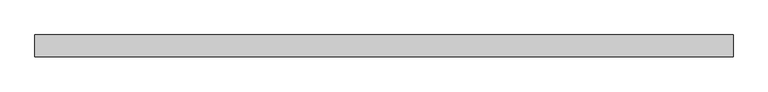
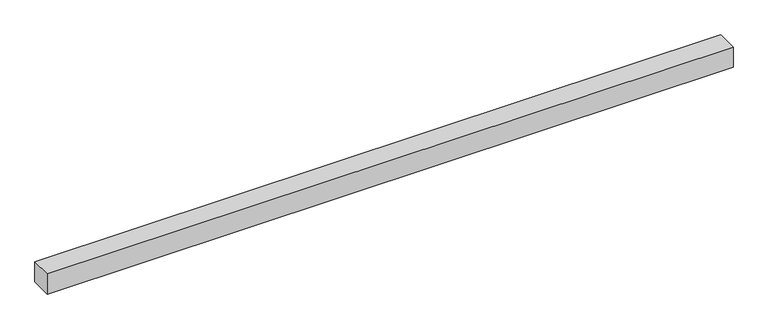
"""IFC4 building model written with IfcOpenShell, lengths in millimetres: proxy geometry, Building-Materials_Other_Daliform_Simple-Family_Accessory_PANEL_for ATLANTIS : PANEL_ATLANTIS-100_diam110_6.5x90x6.5."""

import ifcopenshell
import ifcopenshell.guid

model = None  # the IFC model being written
_history = None  # IfcOwnerHistory: only IFC2X3 demands one
_inside = {}  # id of a spatial element -> (the spatial element, [elements in it])
_under = {}  # id of a project, library or spatial element -> (it, [spatial elements below it])
_declared = {}  # id of a project -> (the project, [libraries it declares])
_typed = {}  # id of a type object -> (the type object, [elements of that type])
_made_of = {}  # id of a material, layer set ... -> (it, [elements and type objects made of it])


def new_model(schema):
    """Start an empty IFC model of exactly this schema.

    Asked for "IFC4X3", IfcOpenShell would pick the latest addendum, in which some entities
    have other attributes; the version numbers below select the first issue.
    IFC2X3 requires an IfcOwnerHistory on every rooted entity: one is made here for all.
    """
    global model, _history
    if schema == "IFC4X3":
        model = ifcopenshell.file(schema_version=(4, 3, 0, 0))
    else:
        model = ifcopenshell.file(schema=schema)
    _inside.clear()
    _under.clear()
    _declared.clear()
    _typed.clear()
    _made_of.clear()
    _history = None
    if model.schema == "IFC2X3":
        org = make("IfcOrganization", Name="unknown")
        user = make(
            "IfcPersonAndOrganization",
            ThePerson=make("IfcPerson", FamilyName="unknown"),
            TheOrganization=org,
        )
        app = make(
            "IfcApplication",
            ApplicationDeveloper=org,
            Version="unknown",
            ApplicationFullName="unknown",
            ApplicationIdentifier="unknown",
        )
        _history = make(
            "IfcOwnerHistory",
            OwningUser=user,
            OwningApplication=app,
            ChangeAction="ADDED",
            CreationDate=0,
        )
    return model


def make(cls, **values):
    """One entity of the class cls with the attributes given. An attribute that is None is left unset."""
    return model.create_entity(
        cls, **{name: value for name, value in values.items() if value is not None}
    )


def rooted(cls, **values):
    """An entity with a GlobalId (a new one), such as an element, a storey or a relation."""
    return make(cls, GlobalId=ifcopenshell.guid.new(), OwnerHistory=_history, **values)


def si_unit(unit_type, name, prefix=None):
    """IfcSIUnit, for example si_unit("LENGTHUNIT", "METRE", prefix="MILLI")."""
    return make("IfcSIUnit", UnitType=unit_type, Prefix=prefix, Name=name)


def assignment(units):
    """IfcUnitAssignment: the units of a project."""
    return None if units is None else make("IfcUnitAssignment", Units=units)


def point(xyz):
    """IfcCartesianPoint."""
    return None if xyz is None else make("IfcCartesianPoint", Coordinates=xyz)


def direction(xyz):
    """IfcDirection."""
    return None if xyz is None else make("IfcDirection", DirectionRatios=xyz)


def frame(location, z_axis=None, x_axis=None):
    """IfcAxis2Placement3D, a coordinate frame: its origin and axes. An axis left out is left unset."""
    return make(
        "IfcAxis2Placement3D",
        Location=point(location),
        Axis=direction(z_axis),
        RefDirection=direction(x_axis),
    )


def origin():
    """The frame at (0, 0, 0) with its axes left unset."""
    return frame((0.0, 0.0, 0.0))


def origin_with_axes():
    """The frame at (0, 0, 0) with the z axis (0, 0, 1) and the x axis (1, 0, 0) written out."""
    return frame((0.0, 0.0, 0.0), z_axis=(0.0, 0.0, 1.0), x_axis=(1.0, 0.0, 0.0))


def place(relative_to, where):
    """IfcLocalPlacement: puts the frame where relative to a parent placement (None: the world)."""
    return make(
        "IfcLocalPlacement", PlacementRelTo=relative_to, RelativePlacement=where
    )


def context(
    kind, dimensions, precision=None, world=None, true_north=None, identifier=None
):
    """IfcGeometricRepresentationContext, for example the 3D "Model" context."""
    return make(
        "IfcGeometricRepresentationContext",
        ContextIdentifier=identifier,
        ContextType=kind,
        CoordinateSpaceDimension=dimensions,
        Precision=precision,
        WorldCoordinateSystem=world,
        TrueNorth=true_north,
    )


def project(units=None, contexts=None):
    """IfcProject with its units and contexts."""
    return rooted(
        "IfcProject",
        Name="project",
        RepresentationContexts=contexts,
        UnitsInContext=assignment(units),
    )


def spatial(cls, under=None, at=None, **own):
    """A site, building, storey or space (cls), placed at a placement, below another one or the project."""
    s = rooted(cls, ObjectPlacement=at, **own)
    if under is not None:
        _under.setdefault(under.id(), (under, []))[1].append(s)
    return s


def polyline(points):
    """IfcPolyline through the points."""
    return make("IfcPolyline", Points=[point(p) for p in points])


def outline(outer, holes=None, kind="AREA"):
    """IfcArbitraryClosedProfileDef: a profile drawn as a closed curve; with holes, ...WithVoids."""
    if holes is None:
        return make("IfcArbitraryClosedProfileDef", ProfileType=kind, OuterCurve=outer)
    return make(
        "IfcArbitraryProfileDefWithVoids",
        ProfileType=kind,
        OuterCurve=outer,
        InnerCurves=holes,
    )


def extrude(swept, where, along, depth):
    """IfcExtrudedAreaSolid: the profile swept, set in the frame where, extruded along a direction by depth."""
    return make(
        "IfcExtrudedAreaSolid",
        SweptArea=swept,
        Position=where,
        ExtrudedDirection=direction(along),
        Depth=depth,
    )


def shape(context_of_items, identifier, shape_type, items):
    """IfcShapeRepresentation: the items that make up one representation, for example the "Body"."""
    return make(
        "IfcShapeRepresentation",
        ContextOfItems=context_of_items,
        RepresentationIdentifier=identifier,
        RepresentationType=shape_type,
        Items=items,
    )


def source(mapping_origin, context_of_items, identifier, shape_type, items):
    """IfcRepresentationMap: a shape defined once, which mapped items show again and again."""
    return make(
        "IfcRepresentationMap",
        MappingOrigin=mapping_origin,
        MappedRepresentation=shape(context_of_items, identifier, shape_type, items),
    )


def transform(
    local_origin,
    x_axis=None,
    y_axis=None,
    z_axis=None,
    scale=None,
    scale2=None,
    scale3=None,
    uniform=True,
):
    """IfcCartesianTransformationOperator3D, or its non-uniform kind. x_axis, y_axis, z_axis: its Axis1, 2, 3."""
    if uniform:
        return make(
            "IfcCartesianTransformationOperator3D",
            Axis1=direction(x_axis),
            Axis2=direction(y_axis),
            LocalOrigin=point(local_origin),
            Scale=scale,
            Axis3=direction(z_axis),
        )
    return make(
        "IfcCartesianTransformationOperator3DnonUniform",
        Axis1=direction(x_axis),
        Axis2=direction(y_axis),
        LocalOrigin=point(local_origin),
        Scale=scale,
        Axis3=direction(z_axis),
        Scale2=scale2,
        Scale3=scale3,
    )


def mapped(mapping_source, mapping_target):
    """IfcMappedItem: shows the shape of a source again, moved by a transform."""
    return make(
        "IfcMappedItem", MappingSource=mapping_source, MappingTarget=mapping_target
    )


def made_of(thing, what):
    """Note that an element or type object is made of a material, layer set ...; save() writes the relation."""
    if what is not None:
        _made_of.setdefault(what.id(), (what, []))[1].append(thing)
    return thing


def element(
    cls,
    number,
    at=None,
    inside=None,
    cuts=None,
    type_object=None,
    material=None,
    context=None,
    identifier="Body",
    shape_type=None,
    held_by="IfcProductDefinitionShape",
    body=None,
    shapes=None,
    **own,
):
    """One element of the class cls, such as IfcWall. Its Tag is "e" and its number.

    at: its placement. inside: the storey or other place that contains it. cuts: it is an
    opening in that element (IfcRelVoidsElement). A single representation is given by context,
    identifier, shape_type and body (its items); several are given by shapes. held_by: the class
    of the entity that holds the representations. save() writes the other relations.
    """
    e = rooted(cls, Tag="e%d" % number, ObjectPlacement=at, **own)
    if body is not None:
        shapes = [shape(context, identifier, shape_type, body)]
    if shapes is not None:
        e.Representation = make(held_by, Representations=shapes)
    if inside is not None:
        _inside.setdefault(inside.id(), (inside, []))[1].append(e)
    if cuts is not None:
        rooted(
            "IfcRelVoidsElement", RelatingBuildingElement=cuts, RelatedOpeningElement=e
        )
    if type_object is not None:
        _typed.setdefault(type_object.id(), (type_object, []))[1].append(e)
    return made_of(e, material)


def aggregate(whole, parts):
    """IfcRelAggregates: a whole, such as a stair, and the parts it consists of."""
    return rooted("IfcRelAggregates", RelatingObject=whole, RelatedObjects=parts)


def save(model, path):
    """Write the relations noted so far, then the file.

    IfcRelAggregates (storeys below a building ...), IfcRelContainedInSpatialStructure (elements
    in a storey), IfcRelDefinesByType, IfcRelAssociatesMaterial and IfcRelDeclares: one each for
    every whole, place, type object, material and project.
    """
    for whole, parts in _under.values():
        aggregate(whole, parts)
    for where, things in _inside.values():
        rooted(
            "IfcRelContainedInSpatialStructure",
            RelatedElements=things,
            RelatingStructure=where,
        )
    for kind, things in _typed.values():
        rooted("IfcRelDefinesByType", RelatedObjects=things, RelatingType=kind)
    for what, things in _made_of.values():
        rooted("IfcRelAssociatesMaterial", RelatedObjects=things, RelatingMaterial=what)
    for by, libraries in _declared.values():
        rooted("IfcRelDeclares", RelatingContext=by, RelatedDefinitions=libraries)
    model.write(path)


def generic_models_1072ffb0(model_context):
    return source(origin(), model_context, "Body", "SweptSolid", [
        extrude(outline(polyline([(0.0, -65.0), (0.0, 0.0), (2081.0, 0.0), (2081.0, -65.0), (0.0, -65.0)])), origin_with_axes(), (0.0, 0.0, 1.0), 65.0),
    ])


if __name__ == "__main__":
    model = new_model("IFC4")
    model_context = context("Model", 3, world=origin())
    ifc_project = project(units=[si_unit("LENGTHUNIT", "METRE", prefix="MILLI")], contexts=[model_context])
    site = spatial("IfcSite", under=ifc_project)
    building = spatial("IfcBuilding", under=site)
    placement = place(None, origin())
    generic_models_shape = generic_models_1072ffb0(model_context)
    element("IfcBuildingElementProxy", 1, Name="Building-Materials_Other_Daliform_Simple-Family_Accessory_PANEL_for ATLANTIS : PANEL_ATLANTIS-100_diam110_6.5x90x6.5", ObjectType="Building-Materials_Other_Daliform_Simple-Family_Accessory_PANEL_for ATLANTIS : PANEL_ATLANTIS-100_diam110_6.5x90x6.5", at=placement, inside=building, context=model_context, shape_type="MappedRepresentation", body=[
        mapped(generic_models_shape, transform((0.0, 0.0, 0.0), x_axis=(1.0, 0.0, 0.0), y_axis=(0.0, 1.0, 0.0), z_axis=(0.0, 0.0, 1.0))),
    ])
    save(model, "model.ifc")
